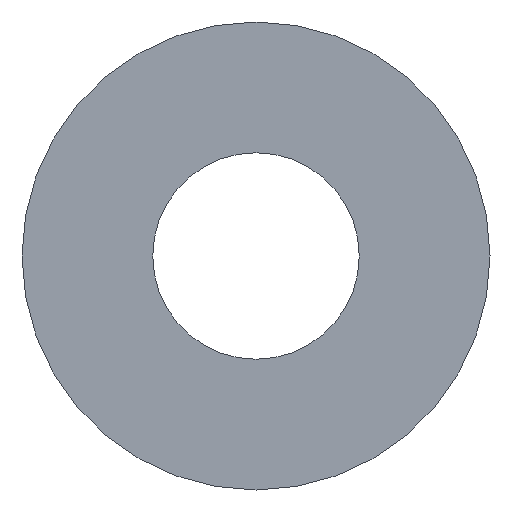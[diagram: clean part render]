
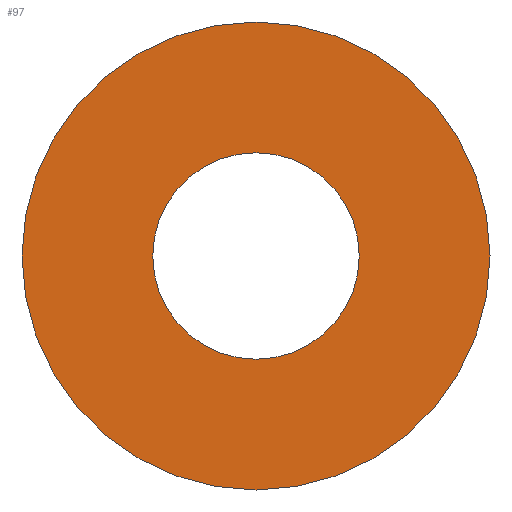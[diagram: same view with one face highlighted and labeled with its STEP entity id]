
A CAD part, front view. The second image highlights one B-rep face of the part: STEP entity #97.
In plain terms, the highlighted planar face has unit normal (0, -1, 0).
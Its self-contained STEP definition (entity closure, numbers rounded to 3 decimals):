
#21=FACE_BOUND('',#40,.T.);
#29=FACE_OUTER_BOUND('',#39,.T.);
#39=EDGE_LOOP('',(#79));
#40=EDGE_LOOP('',(#80));
#53=CIRCLE('',#109,7.5);
#54=CIRCLE('',#111,17.);
#61=VERTEX_POINT('',#162);
#62=VERTEX_POINT('',#165);
#69=EDGE_CURVE('',#61,#61,#53,.T.);
#70=EDGE_CURVE('',#62,#62,#54,.T.);
#79=ORIENTED_EDGE('',*,*,#70,.F.);
#80=ORIENTED_EDGE('',*,*,#69,.T.);
#92=PLANE('',#110);
#97=ADVANCED_FACE('',(#29,#21),#92,.T.);
#109=AXIS2_PLACEMENT_3D('',#163,#131,#132);
#110=AXIS2_PLACEMENT_3D('',#164,#133,#134);
#111=AXIS2_PLACEMENT_3D('',#166,#135,#136);
#131=DIRECTION('center_axis',(0.,1.,0.));
#132=DIRECTION('ref_axis',(1.,0.,0.));
#133=DIRECTION('center_axis',(0.,-1.,0.));
#134=DIRECTION('ref_axis',(0.,0.,-1.));
#135=DIRECTION('center_axis',(0.,1.,0.));
#136=DIRECTION('ref_axis',(1.,0.,0.));
#162=CARTESIAN_POINT('',(-7.5,0.,0.));
#163=CARTESIAN_POINT('Origin',(0.,0.,0.));
#164=CARTESIAN_POINT('Origin',(-17.,0.,0.));
#165=CARTESIAN_POINT('',(-17.,0.,0.));
#166=CARTESIAN_POINT('Origin',(0.,0.,0.));
